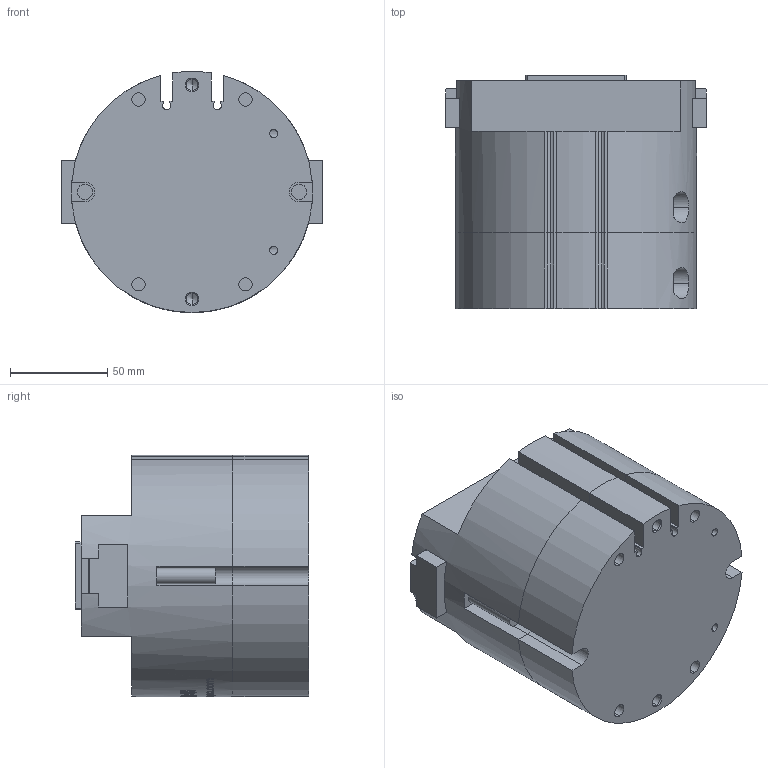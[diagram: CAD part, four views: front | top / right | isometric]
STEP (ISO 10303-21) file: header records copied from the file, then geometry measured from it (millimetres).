
FILE_DESCRIPTION (( 'STEP AP203' ), '1' );
FILE_NAME ('OPM-125-C2-原始檔-組合-W106.04.18.STEP', '2017-04-18T07:41:24', ( 'DanyaoCAD' ), ( '' ), 'SwSTEP 2.0', 'SolidWorks 2016', '' );
FILE_SCHEMA (( 'CONFIG_CONTROL_DESIGN' ));
Length unit declared in the file: millimetre
Products named in the file (4): Griffa; Fondello; Corpo; OPM-125-C2-原始檔-組合-W106.04.18
Assembly tree (4 placements, depth 2):
  OPM-125-C2-原始檔-組合-W106.04.18
    Griffa  x2
    Fondello
    Corpo
Bounding box: 134 x 120 x 123.91 mm (x, y, z)
Volume: 1224988.2 mm3; surface area: 139564.6 mm2
Topology: 4 solids, 4 shells, 1017 faces, 2829 edges, 1868 vertices
Faces by surface type: bspline 665, plane 197, cylinder 127, cone 28
Entity records: 100355 total; most frequent: CARTESIAN_POINT 80518, ORIENTED_EDGE 5466, EDGE_CURVE 2733, B_SPLINE_CURVE_WITH_KNOTS 2045, VERTEX_POINT 1816, DIRECTION 1563, EDGE_LOOP 1063, ADVANCED_FACE 984
